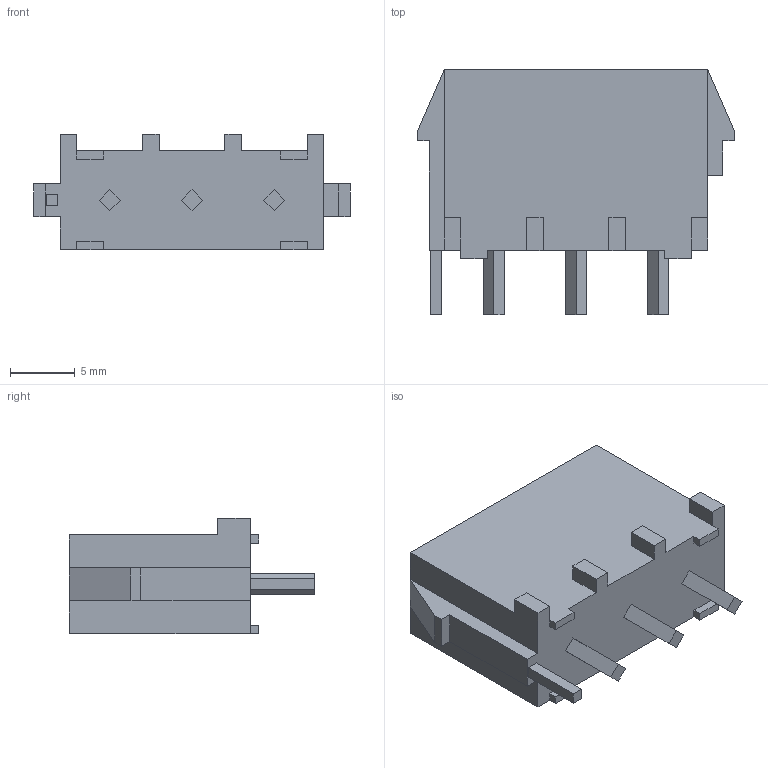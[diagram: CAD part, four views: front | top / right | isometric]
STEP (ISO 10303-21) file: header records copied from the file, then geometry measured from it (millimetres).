
FILE_DESCRIPTION((''),'2;1');
FILE_NAME('367570102','2014-12-09T',('me'),(''),'PRO/ENGINEER BY PARAMETRIC TECHNOLOGY CORPORATION, 2011490','PRO/ENGINEER BY PARAMETRIC TECHNOLOGY CORPORATION, 2011490','');
FILE_SCHEMA(('CONFIG_CONTROL_DESIGN'));
Length unit declared in the file: inch
Products named in the file (1): 367570102
Bounding box: 24.43 x 18.92 x 8.89 mm (x, y, z)
Volume: 1933.9 mm3; surface area: 2298.4 mm2
Topology: 1 solids, 1 shells, 134 faces, 363 edges, 253 vertices
Faces by surface type: plane 106, cylinder 28
Entity records: 4208 total; most frequent: CARTESIAN_POINT 725, DIRECTION 707, ORIENTED_EDGE 684, EDGE_CURVE 342, VECTOR 291, LINE 291, VERTEX_POINT 226, AXIS2_PLACEMENT_3D 208
